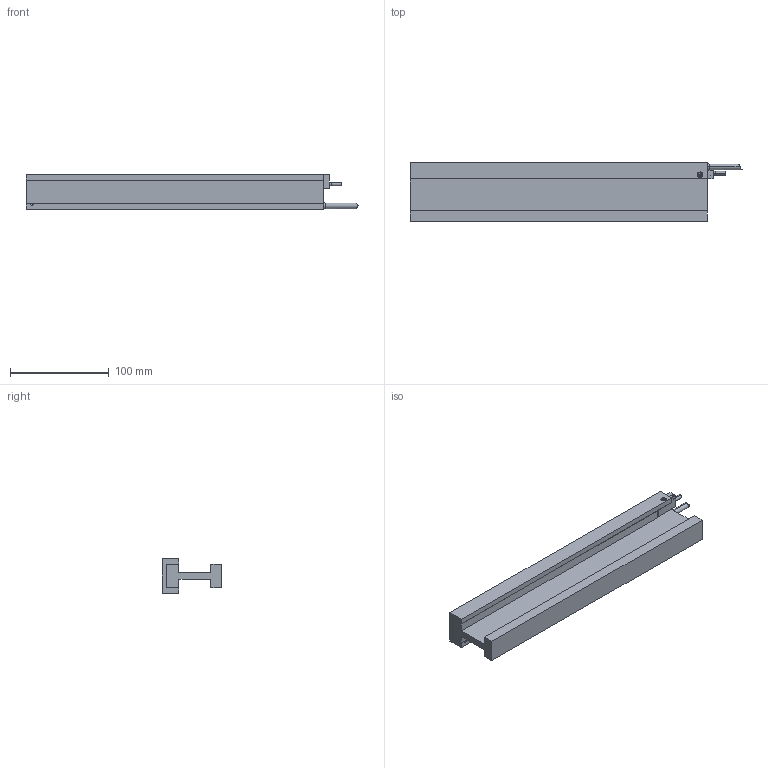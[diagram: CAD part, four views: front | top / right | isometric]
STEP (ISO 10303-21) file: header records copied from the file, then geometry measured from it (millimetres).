
FILE_DESCRIPTION (( 'STEP AP214' ), '1' );
FILE_NAME ('DX30F-C5 -REV.step', '2022-05-06T02:56:57', ( '' ), ( '' ), 'SwSTEP 2.0', 'SolidWorks 2020', '' );
FILE_SCHEMA (( 'AUTOMOTIVE_DESIGN' ));
Length unit declared in the file: millimetre
Products named in the file (1): DX30F-C5 -REV
Bounding box: 336 x 60 x 35 mm (x, y, z)
Volume: 319981.2 mm3; surface area: 102125.3 mm2
Topology: 7 solids, 8 shells, 230 faces, 546 edges, 314 vertices
Faces by surface type: plane 89, cylinder 77, cone 56, torus 8
Entity records: 8917 total; most frequent: CARTESIAN_POINT 1138, DIRECTION 1130, ORIENTED_EDGE 996, EDGE_CURVE 498, AXIS2_PLACEMENT_3D 414, VERTEX_POINT 314, VECTOR 302, LINE 302
